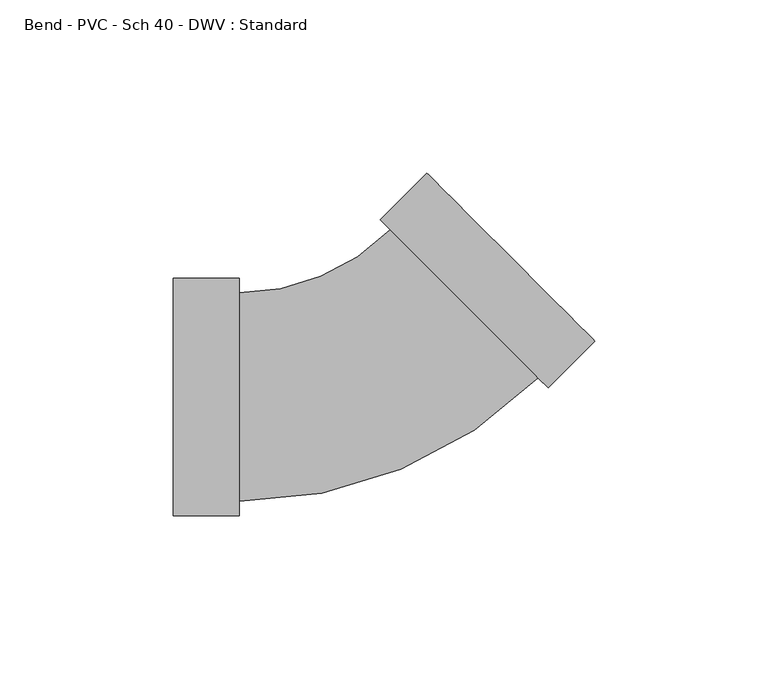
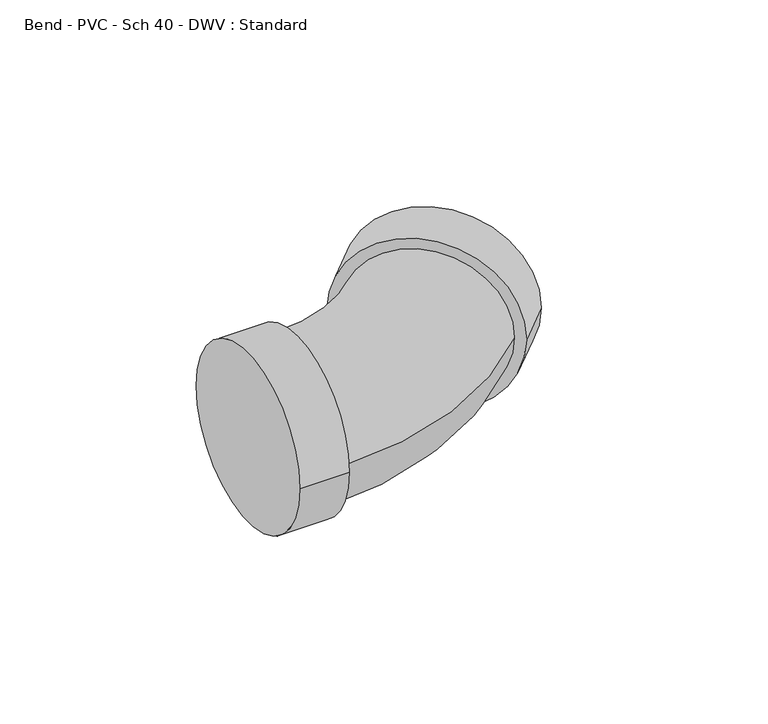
"""IFC4 building model written with IfcOpenShell, lengths in millimetres: pipe fitting geometry, Bend - PVC - Sch 40 - DWV : Standard."""

from ifc_helpers import new_model, si_unit, point, frame, origin, place, context, project, spatial, circle_curve, ellipse_curve, trimmed, source, transform, mapped, element, save
from ifc_brep_helpers import plane_surface, cylinder_surface, revolved_surface, advanced_brep


def bend_pvc_sch_40_dwv_standard_02f1eb69(model_context):
    return source(origin(), model_context, "Body", "AdvancedBrep", [
        advanced_brep(
        [(-57.15, -34.3154, 0.0), (-57.15, 34.3154, 0.0), (-38.1, -34.3154, 0.0), (-38.1, 34.3154, 0.0), (-38.1, -30.1625, 0.0), (-38.1, 30.1625, 0.0), (5.6152785, 48.2685721, 0.0), (48.2691811, 5.6100416, 0.0), (51.2055655, 2.6733385, 0.0), (2.6788941, 51.2052752, 0.0), (64.6766804, 16.142992, 0.0), (16.150009, 64.6749286, 0.0)],
        [
            (0, 1, circle_curve(frame((-57.15, 0.0, 0.0), z_axis=(-1.0, 0.0, 0.0), x_axis=(0.0, 1.0, 0.0)), 34.3154)),
            (1, 0, circle_curve(frame((-57.15, 0.0, 0.0), z_axis=(-1.0, 0.0, 0.0), x_axis=(0.0, 1.0, 0.0)), 34.3154)),
            (2, 3, circle_curve(frame((-38.1, 0.0, 0.0), z_axis=(1.0, 0.0, 0.0), x_axis=(0.0, 1.0, 0.0)), 34.3154)),
            (3, 2, circle_curve(frame((-38.1, 0.0, 0.0), z_axis=(1.0, 0.0, 0.0), x_axis=(0.0, 1.0, 0.0)), 34.3154)),
            (4, 5, circle_curve(frame((-38.1, 0.0, 0.0), z_axis=(-1.0, 0.0, 0.0), x_axis=(0.0, 1.0, 0.0)), 30.1625)),
            (5, 4, circle_curve(frame((-38.1, 0.0, 0.0), z_axis=(-1.0, 0.0, 0.0), x_axis=(0.0, 1.0, 0.0)), 30.1625)),
            (0, 2),
            (3, 1),
            (6, 5, circle_curve(frame((-38.1, 91.9885938, 0.0), z_axis=(0.0, 0.0, -1.0), x_axis=(0.0, -1.0, 0.0)), 61.8260938)),
            (4, 7, circle_curve(frame((-38.1, 91.9885938, 0.0), z_axis=(0.0, 0.0, 1.0), x_axis=(0.0, -1.0, 0.0)), 122.1510938)),
            (7, 6, circle_curve(frame((26.9422298, 26.9393069, 0.0), z_axis=(-0.7071451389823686, -0.7070684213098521, 0.0), x_axis=(-0.7070684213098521, 0.7071451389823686, 0.0)), 30.1625)),
            (6, 7, circle_curve(frame((26.9422298, 26.9393069, 0.0), z_axis=(-0.7071451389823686, -0.7070684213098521, 0.0), x_axis=(-0.7070684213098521, 0.7071451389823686, 0.0)), 30.1625)),
            (8, 9, circle_curve(frame((26.9422298, 26.9393069, 0.0), z_axis=(-0.7071451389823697, -0.707068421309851, 0.0), x_axis=(-0.707068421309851, 0.7071451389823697, 0.0)), 34.3154)),
            (9, 8, circle_curve(frame((26.9422298, 26.9393069, 0.0), z_axis=(-0.7071451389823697, -0.707068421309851, 0.0), x_axis=(-0.707068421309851, 0.7071451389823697, 0.0)), 34.3154)),
            (10, 11, circle_curve(frame((40.4133447, 40.4089603, 0.0), z_axis=(0.7071451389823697, 0.707068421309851, 0.0), x_axis=(-0.707068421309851, 0.7071451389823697, 0.0)), 34.3154)),
            (11, 10, circle_curve(frame((40.4133447, 40.4089603, 0.0), z_axis=(0.7071451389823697, 0.707068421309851, 0.0), x_axis=(-0.707068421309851, 0.7071451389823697, 0.0)), 34.3154)),
            (8, 10),
            (11, 9),
        ],
        [
            plane_surface(frame((-57.15, 0.0, 0.0), z_axis=(-1.0, 0.0, 0.0), x_axis=(0.0, 0.0, 1.0))),
            plane_surface(frame((-38.1, 0.0, 0.0), z_axis=(1.0, 0.0, 0.0), x_axis=(0.0, 0.0, 1.0))),
            cylinder_surface(frame((-57.15, 0.0, 0.0), z_axis=(-1.0, 0.0, 0.0), x_axis=(0.0, 1.0, 0.0)), 34.3154),
            revolved_surface(trimmed(ellipse_curve(frame((-38.1, 0.0, 0.0), z_axis=(-1.0, 0.0, 0.0), x_axis=(0.0, 1.0, 0.0)), 30.1625, 30.1625), [point((-38.1, -30.1625, 0.0))], [point((-38.1, 30.1625, 0.0))], True, "CARTESIAN"), (-38.1, 91.9885938, 0.0), (0.0, 0.0, 1.0)),
            revolved_surface(trimmed(ellipse_curve(frame((-38.1, 0.0, 0.0), z_axis=(-1.0, 0.0, 0.0), x_axis=(0.0, 1.0, 0.0)), 30.1625, 30.1625), [point((-38.1, 30.1625, 0.0))], [point((-38.1, -30.1625, 0.0))], True, "CARTESIAN"), (-38.1, 91.9885938, 0.0), (0.0, 0.0, 1.0)),
            plane_surface(frame((26.9422298, 26.9393069, 0.0), z_axis=(-0.7071451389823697, -0.707068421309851, 0.0), x_axis=(0.0, 0.0, 1.0))),
            plane_surface(frame((40.4133447, 40.4089603, 0.0), z_axis=(0.7071451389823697, 0.707068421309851, 0.0), x_axis=(0.0, 0.0, 1.0))),
            cylinder_surface(frame((26.9422298, 26.9393069, 0.0), z_axis=(-0.7071451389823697, -0.707068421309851, 0.0), x_axis=(-0.707068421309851, 0.7071451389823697, 0.0)), 34.3154),
        ],
        [
            (0, [[1, 2]]),
            (1, [[3, 4], [5, 6]]),
            (2, [[-1, 7, -4, 8]]),
            (2, [[-2, -8, -3, -7]]),
            (3, [[9, -5, 10, 11]]),
            (4, [[-9, 12, -10, -6]]),
            (5, [[13, 14], [-11, -12]]),
            (6, [[15, 16]]),
            (7, [[-13, 17, -16, 18]]),
            (7, [[-14, -18, -15, -17]]),
        ],
    ),
    ])


if __name__ == "__main__":
    model = new_model("IFC4")
    model_context = context("Model", 3, world=origin())
    ifc_project = project(units=[si_unit("LENGTHUNIT", "METRE", prefix="MILLI")], contexts=[model_context])
    site = spatial("IfcSite", under=ifc_project)
    building = spatial("IfcBuilding", under=site)
    placement = place(None, origin())
    bend_pvc_sch_40_dwv_standard_shape = bend_pvc_sch_40_dwv_standard_02f1eb69(model_context)
    element("IfcPipeFitting", 1, ObjectType="Bend - PVC - Sch 40 - DWV : Standard", at=placement, inside=building, context=model_context, shape_type="MappedRepresentation", body=[
        mapped(bend_pvc_sch_40_dwv_standard_shape, transform((0.0, 0.0, 0.0), x_axis=(1.0, 0.0, 0.0), y_axis=(0.0, 1.0, 0.0), z_axis=(0.0, 0.0, 1.0))),
    ])
    save(model, "model.ifc")
